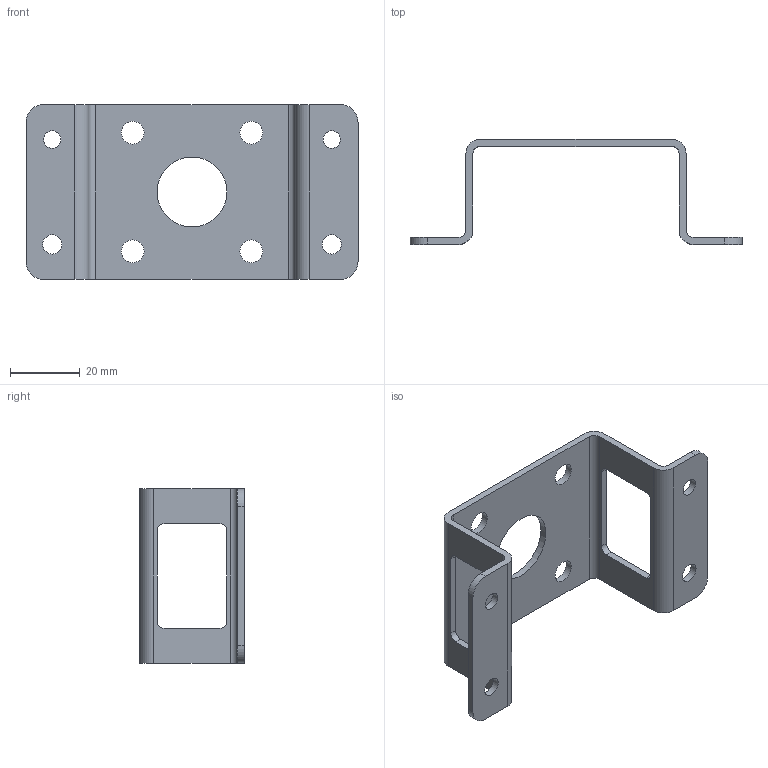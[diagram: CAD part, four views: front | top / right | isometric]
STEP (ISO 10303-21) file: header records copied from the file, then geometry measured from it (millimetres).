
FILE_DESCRIPTION(/* description */ ('Eriks item no: 12735012'),/* implementation_level */ '2;1');
FILE_NAME(/* name */ 'L:\DATA\ENG\Inventor\Econ 3D modellen\switchbox\HKC\Econ switchbox 79652\Bracket 80x30-F05 low.stp',/* time_stamp */ '2024-01-16T12:37:26+01:00',/* author */ ('roger.thijssen'),/* organization */ (''),/* preprocessor_version */ 'ST-DEVELOPER v18',/* originating_system */ 'Autodesk Inventor 2020',/* authorisation */ '');
FILE_SCHEMA (('CONFIG_CONTROL_DESIGN'));
Length unit declared in the file: millimetre
Products named in the file (1): Bracket 80x30-F05 low
Bounding box: 95 x 30 x 50 mm (x, y, z)
Volume: 11088.4 mm3; surface area: 12661.9 mm2
Topology: 1 solids, 1 shells, 51 faces, 147 edges, 98 vertices
Faces by surface type: cylinder 29, plane 22
Full cylindrical faces by diameter (mm): 5 x2, 5.5 x2, 6.5 x4, 20 x1
Entity records: 1784 total; most frequent: DIRECTION 309, CARTESIAN_POINT 297, ORIENTED_EDGE 294, EDGE_CURVE 147, AXIS2_PLACEMENT_3D 110, VERTEX_POINT 98, LINE 89, VECTOR 89
